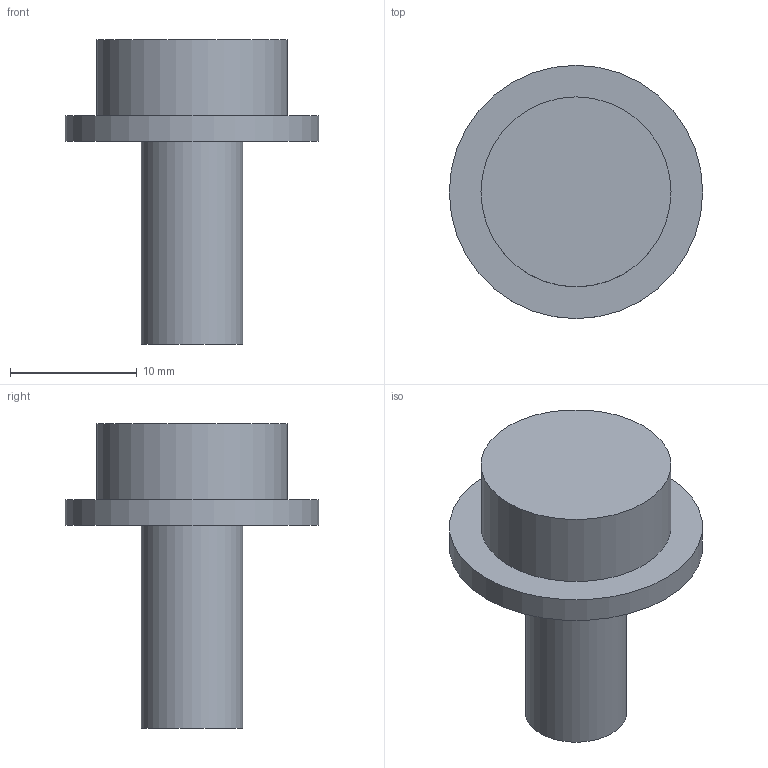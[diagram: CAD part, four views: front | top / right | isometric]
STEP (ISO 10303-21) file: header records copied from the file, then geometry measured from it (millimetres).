
FILE_DESCRIPTION(('Open CASCADE Model'),'2;1');
FILE_NAME('Open CASCADE Shape Model','2026-09-01T17:09:25',('Author'),( 'Open CASCADE'),'Open CASCADE STEP processor 7.9','Open CASCADE 7.9' ,'Unknown');
FILE_SCHEMA(('AUTOMOTIVE_DESIGN { 1 0 10303 214 1 1 1 1 }'));
Length unit declared in the file: millimetre
Products named in the file (1): Open CASCADE STEP translator 7.9 7
Bounding box: 20 x 20 x 24 mm (x, y, z)
Volume: 2479.9 mm3; surface area: 1542.5 mm2
Topology: 1 solids, 1 shells, 9 faces, 12 edges, 8 vertices
Faces by surface type: plane 5, cylinder 4
Full cylindrical faces by diameter (mm): 8 x1, 8.5 x1, 15 x1, 20 x1
Entity records: 360 total; most frequent: DIRECTION 64, CARTESIAN_POINT 54, ORIENTED_EDGE 24, PCURVE 24, DEFINITIONAL_REPRESENTATION 24, LINE 20, VECTOR 20, AXIS2_PLACEMENT_3D 18
